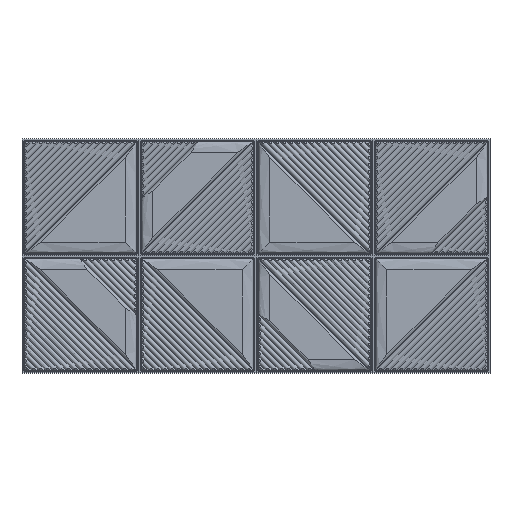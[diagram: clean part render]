
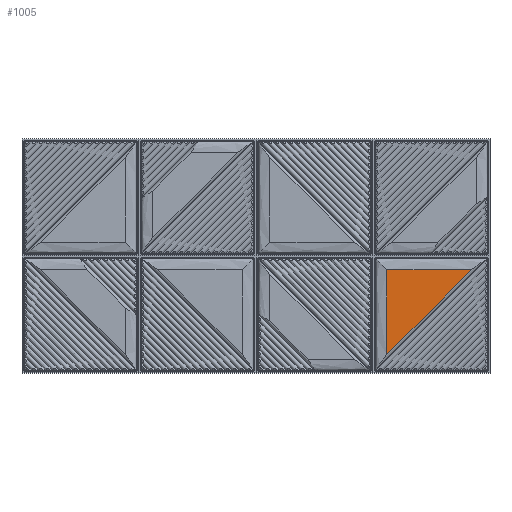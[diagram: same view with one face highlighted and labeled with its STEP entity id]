
A CAD part, top view. The second image highlights one B-rep face of the part: STEP entity #1005.
In plain terms, the highlighted planar face has unit normal (0, 0, 1).
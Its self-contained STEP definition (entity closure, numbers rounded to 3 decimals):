
#1005=ADVANCED_FACE('',(#1549),#9083,.T.);
#1549=FACE_OUTER_BOUND('',#2096,.T.);
#2096=EDGE_LOOP('',(#3612,#3613,#3614));
#3612=ORIENTED_EDGE('',*,*,#5930,.F.);
#3613=ORIENTED_EDGE('',*,*,#5975,.F.);
#3614=ORIENTED_EDGE('',*,*,#5937,.F.);
#5930=EDGE_CURVE('',#8432,#8431,#7315,.T.);
#5937=EDGE_CURVE('',#8431,#8438,#7321,.T.);
#5975=EDGE_CURVE('',#8438,#8432,#7358,.T.);
#7315=B_SPLINE_CURVE_WITH_KNOTS('',1,(#19844,#19845),.UNSPECIFIED.,.F.,
 .F.,(2,2),(151.633,585.954),.UNSPECIFIED.);
#7321=B_SPLINE_CURVE_WITH_KNOTS('',1,(#19894,#19895),.UNSPECIFIED.,.F.,
 .F.,(2,2),(129.916,564.237),.UNSPECIFIED.);
#7358=B_SPLINE_CURVE_WITH_KNOTS('',1,(#20568,#20569),.UNSPECIFIED.,.F.,
 .F.,(2,2),(-696.866,-82.643),.UNSPECIFIED.);
#8431=VERTEX_POINT('',#13345);
#8432=VERTEX_POINT('',#13346);
#8438=VERTEX_POINT('',#13352);
#9083=PLANE('',#9336);
#9336=AXIS2_PLACEMENT_3D('',#10968,#9655,$);
#9655=DIRECTION('',(0.,0.,1.));
#10968=CARTESIAN_POINT('',(-2819.803,-1217.234,-10.));
#13345=CARTESIAN_POINT('',(-2110.862,-654.578,-10.));
#13346=CARTESIAN_POINT('',(-2110.862,-1088.899,-10.));
#13352=CARTESIAN_POINT('',(-1676.541,-654.578,-10.));
#19844=CARTESIAN_POINT('',(-2110.862,-1088.899,-10.));
#19845=CARTESIAN_POINT('',(-2110.862,-654.578,-10.));
#19894=CARTESIAN_POINT('',(-2110.862,-654.578,-10.));
#19895=CARTESIAN_POINT('',(-1676.541,-654.578,-10.));
#20568=CARTESIAN_POINT('',(-1676.541,-654.578,-10.));
#20569=CARTESIAN_POINT('',(-2110.862,-1088.899,-10.));
